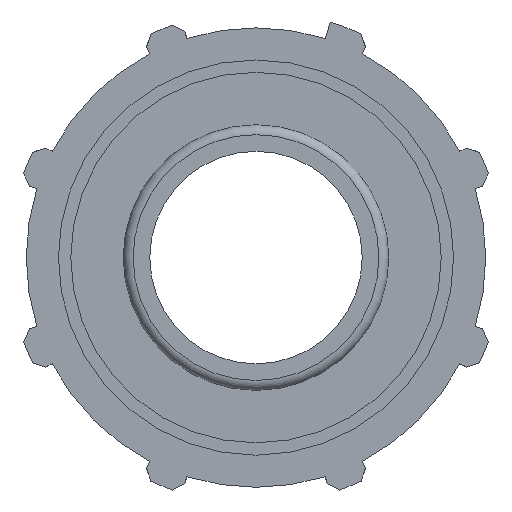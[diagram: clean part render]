
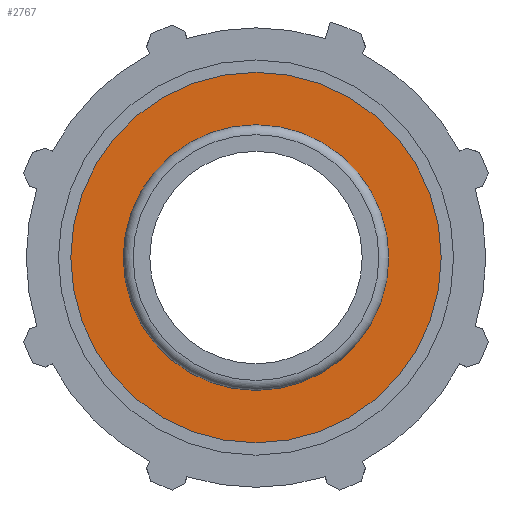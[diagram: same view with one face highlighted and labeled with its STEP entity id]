
A CAD part, left-side view. The second image highlights one B-rep face of the part: STEP entity #2767.
In plain terms, the highlighted planar face has unit normal (-1, 0, 0).
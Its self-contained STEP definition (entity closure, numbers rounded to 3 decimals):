
#585=PLANE('',#3074);
#611=FACE_BOUND('',#944,.T.);
#765=FACE_OUTER_BOUND('',#943,.T.);
#943=EDGE_LOOP('',(#2587));
#944=EDGE_LOOP('',(#2588));
#958=CIRCLE('',#2786,25.);
#1102=CIRCLE('',#3075,34.875);
#1112=VERTEX_POINT('',#3910);
#1380=VERTEX_POINT('',#4863);
#1390=EDGE_CURVE('',#1112,#1112,#958,.T.);
#1784=EDGE_CURVE('',#1380,#1380,#1102,.T.);
#2587=ORIENTED_EDGE('',*,*,#1784,.F.);
#2588=ORIENTED_EDGE('',*,*,#1390,.T.);
#2767=ADVANCED_FACE('',(#765,#611),#585,.T.);
#2786=AXIS2_PLACEMENT_3D('',#3911,#3109,#3110);
#3074=AXIS2_PLACEMENT_3D('',#4862,#3875,#3876);
#3075=AXIS2_PLACEMENT_3D('',#4864,#3877,#3878);
#3109=DIRECTION('center_axis',(1.,0.,0.));
#3110=DIRECTION('ref_axis',(0.,0.,-1.));
#3875=DIRECTION('center_axis',(-1.,0.,0.));
#3876=DIRECTION('ref_axis',(0.,0.,1.));
#3877=DIRECTION('center_axis',(1.,0.,0.));
#3878=DIRECTION('ref_axis',(0.,0.,-1.));
#3910=CARTESIAN_POINT('',(-21.4,25.,0.));
#3911=CARTESIAN_POINT('Origin',(-21.4,0.,0.));
#4862=CARTESIAN_POINT('Origin',(-21.4,34.875,0.));
#4863=CARTESIAN_POINT('',(-21.4,34.875,0.));
#4864=CARTESIAN_POINT('Origin',(-21.4,0.,0.));
